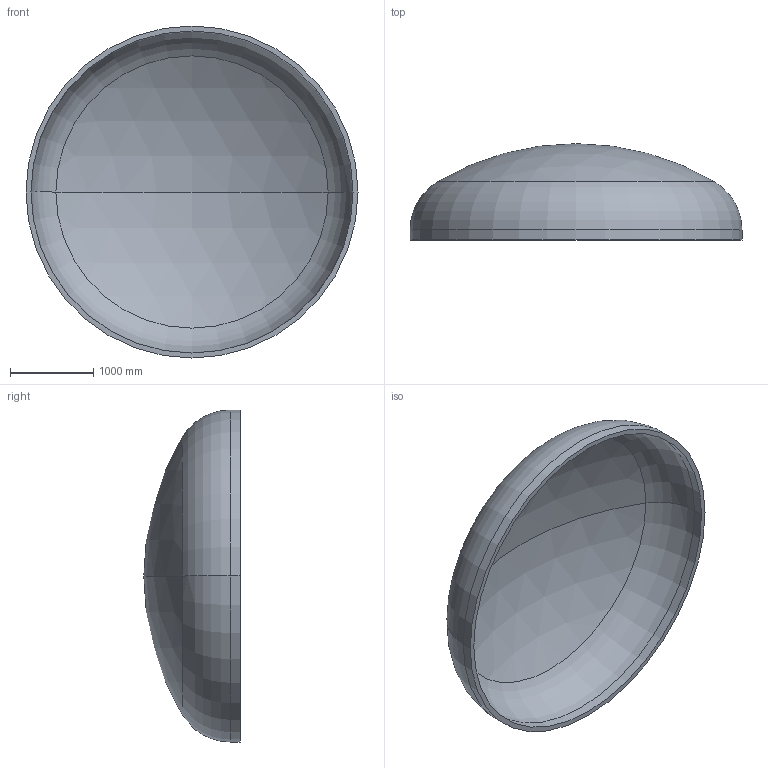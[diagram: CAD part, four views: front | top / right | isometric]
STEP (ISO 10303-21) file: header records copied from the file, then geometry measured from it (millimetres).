
FILE_DESCRIPTION (( 'STEP AP203' ), '1' );
FILE_NAME ('DIN 28013 Korbbogenform_-_Boden DIN 28013 - 4000 x 120 - I - s=60.step', '2016-07-01T22:33:36', ( '' ), ( '' ), 'SwSTEP 2.0', 'SolidWorks 2013', '' );
FILE_SCHEMA (( 'CONFIG_CONTROL_DESIGN' ));
Length unit declared in the file: millimetre
Products named in the file (1): DIN 28013 Korbbogenform_-_Boden DIN 28013 - 4000 x 120 - I - s=60
Bounding box: 4000 x 1160.41 x 4000 mm (x, y, z)
Volume: 1112565263.2 mm3; surface area: 37835707.7 mm2
Topology: 1 solids, 1 shells, 13 faces, 24 edges, 14 vertices
Faces by surface type: torus 4, cylinder 4, sphere 4, plane 1
Entity records: 407 total; most frequent: DIRECTION 72, CARTESIAN_POINT 52, ORIENTED_EDGE 48, AXIS2_PLACEMENT_3D 34, EDGE_CURVE 24, CIRCLE 20, EDGE_LOOP 14, VERTEX_POINT 14
